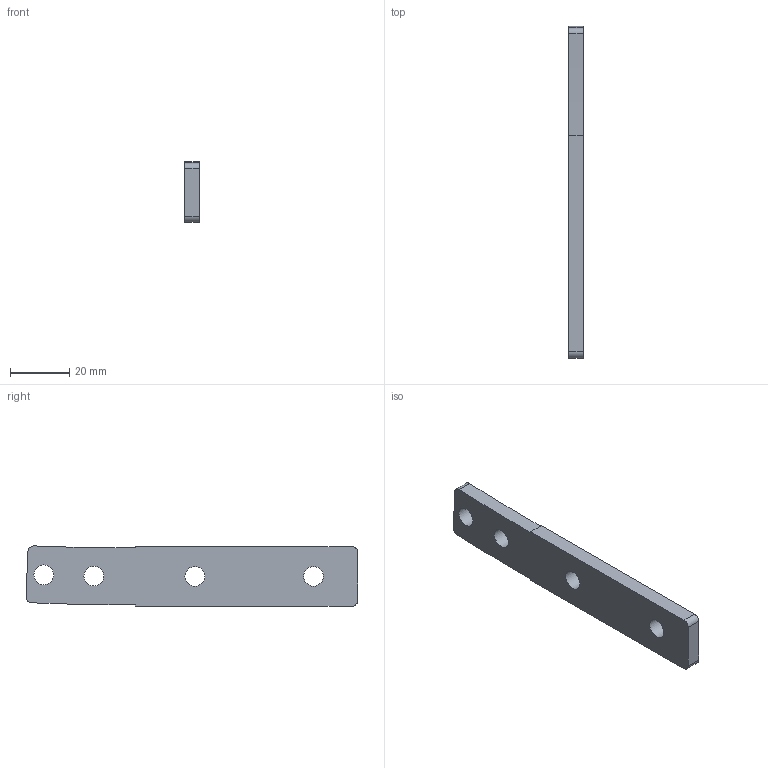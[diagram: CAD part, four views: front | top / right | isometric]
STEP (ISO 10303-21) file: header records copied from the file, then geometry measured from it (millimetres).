
FILE_DESCRIPTION(/* description */ ('CONNECTING STRIP VERTICAL BEND R860 5°'),/* implementation_level */ '2;1');
FILE_NAME(/* name */ '\\carryline.intra\privat\users\mathias\Desktop\Tillfälliga filer\100-7028.stp',/* time_stamp */ '2018-11-20T11:27:12+01:00',/* author */ ('PL'),/* organization */ ('CARRYLINE'),/* preprocessor_version */ 'ST-DEVELOPER v17',/* originating_system */ 'Autodesk Inventor 2018',/* authorisation */ '');
FILE_SCHEMA (('AUTOMOTIVE_DESIGN { 1 0 10303 214 3 1 1 }'));
Length unit declared in the file: millimetre
Products named in the file (1): 100-7028
Bounding box: 5 x 111.9 x 20.29 mm (x, y, z)
Volume: 10300.9 mm3; surface area: 5836.7 mm2
Topology: 1 solids, 1 shells, 18 faces, 52 edges, 36 vertices
Faces by surface type: cylinder 10, plane 8
Full cylindrical faces by diameter (mm): 6.647 x4
Entity records: 667 total; most frequent: DIRECTION 114, CARTESIAN_POINT 107, ORIENTED_EDGE 104, EDGE_CURVE 52, AXIS2_PLACEMENT_3D 43, VERTEX_POINT 36, LINE 28, VECTOR 28
